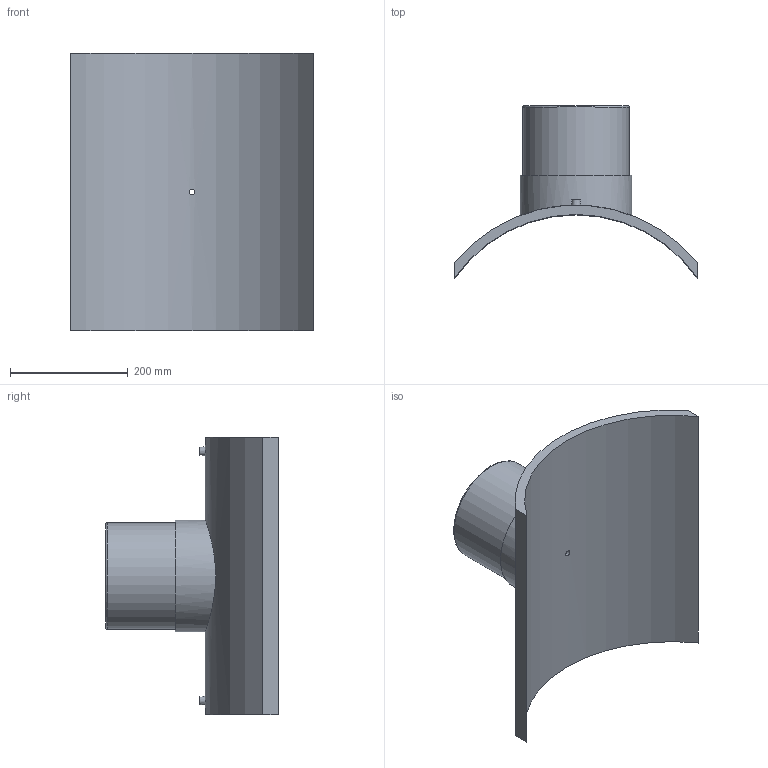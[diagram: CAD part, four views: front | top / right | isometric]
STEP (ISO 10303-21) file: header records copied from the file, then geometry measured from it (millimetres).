
FILE_DESCRIPTION(/* description */ ('PLASSON BRANCH SADDLE 500x180'),/* implementation_level */ '2;1');
FILE_NAME(/* name */ 'C:\Dropbox\KIMPROJECTS-Inventor 2019\99-16-3568-Processing\ElectroFusion Fittings\495803\stp\495803500180T.stp',/* time_stamp */ '2024-04-04T11:51:38+02:00',/* author */ ('KIM'),/* organization */ (''),/* preprocessor_version */ 'ST-DEVELOPER v17.2',/* originating_system */ 'Autodesk Inventor 2019',/* authorisation */ '');
FILE_SCHEMA (('AUTOMOTIVE_DESIGN { 1 0 10303 214 3 1 1 }'));
Length unit declared in the file: millimetre
Products named in the file (1): 495803500180T
Bounding box: 411 x 292.63 x 470 mm (x, y, z)
Volume: 5346981.6 mm3; surface area: 676172.5 mm2
Topology: 1 solids, 1 shells, 29 faces, 60 edges, 43 vertices
Faces by surface type: plane 13, cylinder 12, torus 2, cone 2
Full cylindrical faces by diameter (mm): 4 x2, 9.6 x1, 10 x2, 16 x1, 144 x1, 180 x1, 189 x1
Entity records: 1086 total; most frequent: CARTESIAN_POINT 400, DIRECTION 139, ORIENTED_EDGE 120, EDGE_CURVE 60, AXIS2_PLACEMENT_3D 60, VERTEX_POINT 43, EDGE_LOOP 41, CIRCLE 30
